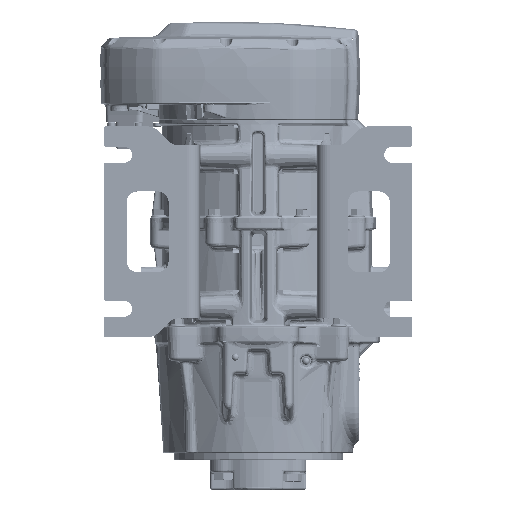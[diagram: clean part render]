
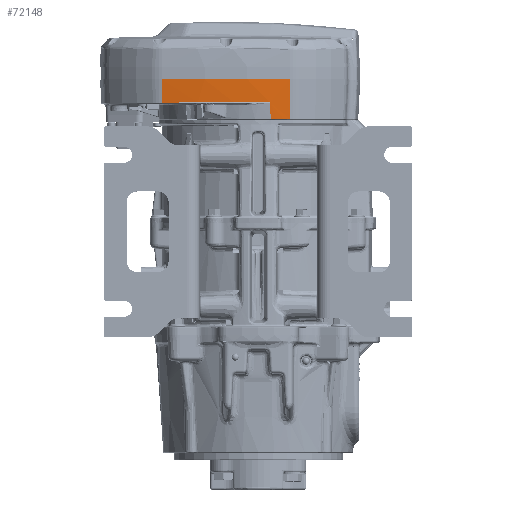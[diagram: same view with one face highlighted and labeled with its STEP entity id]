
A CAD part, top view. The second image highlights one B-rep face of the part: STEP entity #72148.
In plain terms, the highlighted conical face has half-angle 3 degrees and reference radius 440.69 mm.
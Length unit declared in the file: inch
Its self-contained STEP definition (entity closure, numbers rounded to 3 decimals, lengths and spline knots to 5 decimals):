
#2033 = AXIS2_PLACEMENT_3D ( 'NONE', #212545, #77765, #191116 ) ;
#13357 = ORIENTED_EDGE ( 'NONE', *, *, #217151, .F. ) ;
#19723 = EDGE_CURVE ( 'NONE', #114563, #94518, #172850, .T. ) ;
#19977 = CARTESIAN_POINT ( 'NONE',  ( 0.42864, 0.02369, 3.48736 ) ) ;
#21871 = DIRECTION ( 'NONE',  ( -0.007, 0.999, 0.052 ) ) ;
#22195 = CARTESIAN_POINT ( 'NONE',  ( 1.08255, 0.02369, 3.41672 ) ) ;
#22517 = LINE ( 'NONE', #130416, #244660 ) ;
#23792 = CARTESIAN_POINT ( 'NONE',  ( -1.1, 0.02369, -13.72422 ) ) ;
#35745 = CARTESIAN_POINT ( 'NONE',  ( -1.1, 0.58488, -13.72422 ) ) ;
#41839 = CARTESIAN_POINT ( 'NONE',  ( -1.1, 1.372, -13.72422 ) ) ;
#48824 = AXIS2_PLACEMENT_3D ( 'NONE', #23792, #219051, #134500 ) ;
#54592 = ORIENTED_EDGE ( 'NONE', *, *, #19723, .T. ) ;
#55928 = CARTESIAN_POINT ( 'NONE',  ( -3.28504, 1.372, 3.48764 ) ) ;
#72148 = ADVANCED_FACE ( 'NONE', ( #125211 ), #222153, .T. ) ;
#77765 = DIRECTION ( 'NONE',  ( 0., 1., 0. ) ) ;
#79606 = VERTEX_POINT ( 'NONE', #55928 ) ;
#83689 = DIRECTION ( 'NONE',  ( 0., 1., 0. ) ) ;
#85112 = DIRECTION ( 'NONE',  ( 1., 0., 0. ) ) ;
#94518 = VERTEX_POINT ( 'NONE', #22195 ) ;
#104326 = AXIS2_PLACEMENT_3D ( 'NONE', #35745, #251130, #209557 ) ;
#110560 = CARTESIAN_POINT ( 'NONE',  ( 0.40006, 0.56909, 3.51857 ) ) ;
#114563 = VERTEX_POINT ( 'NONE', #210188 ) ;
#116637 = EDGE_CURVE ( 'NONE', #259853, #79606, #281729, .T. ) ;
#117480 = VECTOR ( 'NONE', #21871, 39.37008 ) ;
#124583 = CIRCLE ( 'NONE', #215964, 17.35 ) ;
#125211 = FACE_OUTER_BOUND ( 'NONE', #274965, .T. ) ;
#130416 = CARTESIAN_POINT ( 'NONE',  ( 1.09147, 1.372, 3.48682 ) ) ;
#134500 = DIRECTION ( 'NONE',  ( -1., 0., 0. ) ) ;
#145148 = ORIENTED_EDGE ( 'NONE', *, *, #162652, .T. ) ;
#147007 = CARTESIAN_POINT ( 'NONE',  ( 1.09147, 1.372, 3.48682 ) ) ;
#155073 = CARTESIAN_POINT ( 'NONE',  ( 0.40089, 0.5533, 3.51767 ) ) ;
#155137 = CARTESIAN_POINT ( 'NONE',  ( -3.27984, 0.58488, 3.44671 ) ) ;
#162652 = EDGE_CURVE ( 'NONE', #94518, #282707, #22517, .T. ) ;
#170630 = DIRECTION ( 'NONE',  ( 0.007, 0.999, 0.052 ) ) ;
#172365 = EDGE_CURVE ( 'NONE', #79606, #282707, #124583, .T. ) ;
#172850 = CIRCLE ( 'NONE', #48824, 17.27934 ) ;
#173768 = CARTESIAN_POINT ( 'NONE',  ( 0.41069, 0.36624, 3.50697 ) ) ;
#177562 = ORIENTED_EDGE ( 'NONE', *, *, #116637, .F. ) ;
#184494 = EDGE_CURVE ( 'NONE', #259853, #266899, #227939, .T. ) ;
#188461 = CARTESIAN_POINT ( 'NONE',  ( 0.39923, 0.58488, 3.51947 ) ) ;
#191116 = DIRECTION ( 'NONE',  ( 1., 0., 0. ) ) ;
#196657 = CARTESIAN_POINT ( 'NONE',  ( 0.41967, 0.19496, 3.49717 ) ) ;
#209557 = DIRECTION ( 'NONE',  ( 1., 0., 0. ) ) ;
#210188 = CARTESIAN_POINT ( 'NONE',  ( 0.42864, 0.02369, 3.48736 ) ) ;
#212545 = CARTESIAN_POINT ( 'NONE',  ( -1.1, 1.372, -13.72422 ) ) ;
#215288 = CARTESIAN_POINT ( 'NONE',  ( 0.40172, 0.53751, 3.51676 ) ) ;
#215964 = AXIS2_PLACEMENT_3D ( 'NONE', #41839, #83689, #85112 ) ;
#217151 = EDGE_CURVE ( 'NONE', #114563, #266899, #279821, .T. ) ;
#219051 = DIRECTION ( 'NONE',  ( 0., 1., 0. ) ) ;
#219940 = CARTESIAN_POINT ( 'NONE',  ( -3.28504, 1.372, 3.48764 ) ) ;
#222153 = CONICAL_SURFACE ( 'NONE', #2033, 17.35, 0.052 ) ;
#227939 = CIRCLE ( 'NONE', #104326, 17.30875 ) ;
#244660 = VECTOR ( 'NONE', #170630, 39.37008 ) ;
#251130 = DIRECTION ( 'NONE',  ( 0., 1., 0. ) ) ;
#259853 = VERTEX_POINT ( 'NONE', #155137 ) ;
#260457 = ORIENTED_EDGE ( 'NONE', *, *, #172365, .F. ) ;
#262485 = CARTESIAN_POINT ( 'NONE',  ( 0.39923, 0.58488, 3.51947 ) ) ;
#266899 = VERTEX_POINT ( 'NONE', #188461 ) ;
#272388 = ORIENTED_EDGE ( 'NONE', *, *, #184494, .T. ) ;
#274965 = EDGE_LOOP ( 'NONE', ( #177562, #272388, #13357, #54592, #145148, #260457 ) ) ;
#279821 = B_SPLINE_CURVE_WITH_KNOTS ( 'NONE', 3,
 ( #19977, #196657, #173768, #215288, #155073, #110560, #262485 ),
 .UNSPECIFIED., .F., .F.,
 ( 4, 3, 4 ),
 ( 0.0006, 0.01369, 0.0149 ),
 .UNSPECIFIED. ) ;
#281729 = LINE ( 'NONE', #219940, #117480 ) ;
#282707 = VERTEX_POINT ( 'NONE', #147007 ) ;
